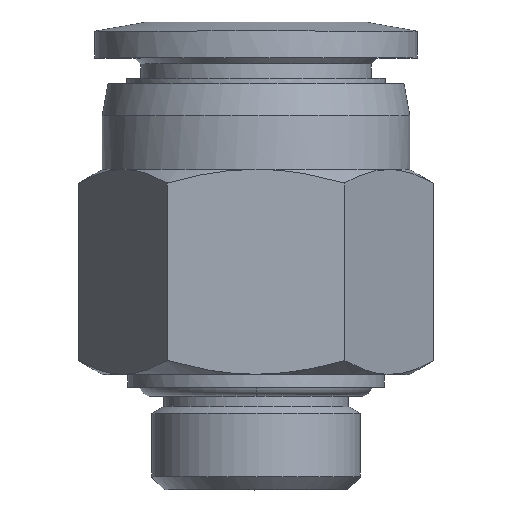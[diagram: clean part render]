
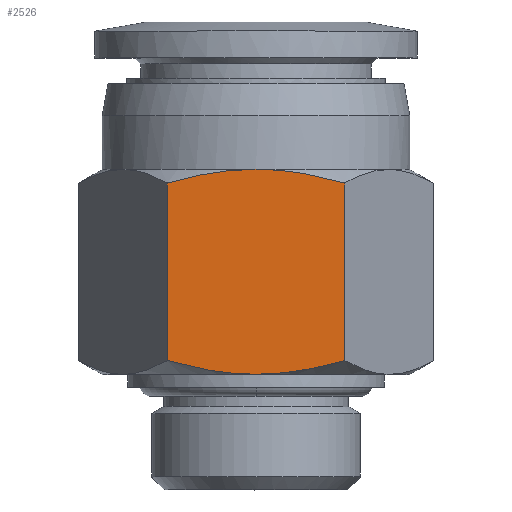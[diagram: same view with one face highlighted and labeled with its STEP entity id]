
A CAD part, top view. The second image highlights one B-rep face of the part: STEP entity #2526.
In plain terms, the highlighted planar face has unit normal (0, 0, 1).
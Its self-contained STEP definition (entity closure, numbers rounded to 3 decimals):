
#15 = B_SPLINE_CURVE_WITH_KNOTS ( 'NONE', 3,
 ( #325, #1585, #2099, #1600 ),
 .UNSPECIFIED., .F., .F.,
 ( 4, 4 ),
 ( 0., 1. ),
 .UNSPECIFIED. ) ;
#18 = CARTESIAN_POINT ( 'NONE',  ( -4.47, 9.438, 12. ) ) ;
#29 = CARTESIAN_POINT ( 'NONE',  ( -6.928, 10.072, 12. ) ) ;
#37 = DIRECTION ( 'NONE',  ( 1., 0., 0. ) ) ;
#129 = EDGE_CURVE ( 'NONE', #287, #3015, #15, .T. ) ;
#130 = CARTESIAN_POINT ( 'NONE',  ( 0., 25., 12. ) ) ;
#133 = CARTESIAN_POINT ( 'NONE',  ( 6.928, 10.072, 12. ) ) ;
#201 = CARTESIAN_POINT ( 'NONE',  ( 6.928, 10.072, 12. ) ) ;
#211 = B_SPLINE_CURVE_WITH_KNOTS ( 'NONE', 3,
 ( #1268, #1047, #2496, #511, #2245, #3280 ),
 .UNSPECIFIED., .F., .F.,
 ( 4, 2, 4 ),
 ( 0., 0.5, 1. ),
 .UNSPECIFIED. ) ;
#225 = VERTEX_POINT ( 'NONE', #2302 ) ;
#227 = EDGE_CURVE ( 'NONE', #1193, #287, #211, .T. ) ;
#287 = VERTEX_POINT ( 'NONE', #1586 ) ;
#325 = CARTESIAN_POINT ( 'NONE',  ( -6.928, 23.928, 12. ) ) ;
#409 = CARTESIAN_POINT ( 'NONE',  ( 6.928, 19.309, 12. ) ) ;
#413 = CARTESIAN_POINT ( 'NONE',  ( 5.667, 9.708, 12. ) ) ;
#483 = B_SPLINE_CURVE_WITH_KNOTS ( 'NONE', 3,
 ( #2345, #3122, #18, #1038, #1563, #2058 ),
 .UNSPECIFIED., .F., .F.,
 ( 4, 2, 4 ),
 ( 0., 0.5, 1. ),
 .UNSPECIFIED. ) ;
#511 = CARTESIAN_POINT ( 'NONE',  ( -4.47, 24.562, 12. ) ) ;
#613 = AXIS2_PLACEMENT_3D ( 'NONE', #1316, #2333, #37 ) ;
#628 = CARTESIAN_POINT ( 'NONE',  ( 1.092, 25., 12. ) ) ;
#765 = B_SPLINE_CURVE_WITH_KNOTS ( 'NONE', 3,
 ( #910, #2899, #1917, #2376, #628, #130 ),
 .UNSPECIFIED., .F., .F.,
 ( 4, 2, 4 ),
 ( 0., 0.5, 1. ),
 .UNSPECIFIED. ) ;
#910 = CARTESIAN_POINT ( 'NONE',  ( 6.928, 23.928, 12. ) ) ;
#997 = EDGE_CURVE ( 'NONE', #3015, #1146, #483, .T. ) ;
#1038 = CARTESIAN_POINT ( 'NONE',  ( -2.204, 9.088, 12. ) ) ;
#1047 = CARTESIAN_POINT ( 'NONE',  ( -1.092, 25., 12. ) ) ;
#1072 = ORIENTED_EDGE ( 'NONE', *, *, #227, .T. ) ;
#1093 = EDGE_CURVE ( 'NONE', #2280, #1193, #765, .T. ) ;
#1113 = CARTESIAN_POINT ( 'NONE',  ( 6.928, 23.928, 12. ) ) ;
#1146 = VERTEX_POINT ( 'NONE', #1948 ) ;
#1193 = VERTEX_POINT ( 'NONE', #1220 ) ;
#1220 = CARTESIAN_POINT ( 'NONE',  ( 0., 25., 12. ) ) ;
#1252 = ORIENTED_EDGE ( 'NONE', *, *, #1759, .T. ) ;
#1268 = CARTESIAN_POINT ( 'NONE',  ( 0., 25., 12. ) ) ;
#1316 = CARTESIAN_POINT ( 'NONE',  ( 0., 25., 12. ) ) ;
#1435 = CARTESIAN_POINT ( 'NONE',  ( 6.928, 23.928, 12. ) ) ;
#1496 = CARTESIAN_POINT ( 'NONE',  ( 1.092, 9., 12. ) ) ;
#1563 = CARTESIAN_POINT ( 'NONE',  ( -1.092, 9., 12. ) ) ;
#1585 = CARTESIAN_POINT ( 'NONE',  ( -6.928, 19.309, 12. ) ) ;
#1586 = CARTESIAN_POINT ( 'NONE',  ( -6.928, 23.928, 12. ) ) ;
#1590 = EDGE_CURVE ( 'NONE', #1146, #225, #2653, .T. ) ;
#1600 = CARTESIAN_POINT ( 'NONE',  ( -6.928, 10.072, 12. ) ) ;
#1658 = ORIENTED_EDGE ( 'NONE', *, *, #997, .T. ) ;
#1748 = B_SPLINE_CURVE_WITH_KNOTS ( 'NONE', 3,
 ( #133, #2707, #409, #1435 ),
 .UNSPECIFIED., .F., .F.,
 ( 4, 4 ),
 ( 0., 1. ),
 .UNSPECIFIED. ) ;
#1759 = EDGE_CURVE ( 'NONE', #225, #2280, #1748, .T. ) ;
#1827 = PLANE ( 'NONE',  #613 ) ;
#1917 = CARTESIAN_POINT ( 'NONE',  ( 4.47, 24.562, 12. ) ) ;
#1948 = CARTESIAN_POINT ( 'NONE',  ( 0., 9., 12. ) ) ;
#2058 = CARTESIAN_POINT ( 'NONE',  ( 0., 9., 12. ) ) ;
#2079 = ORIENTED_EDGE ( 'NONE', *, *, #129, .T. ) ;
#2099 = CARTESIAN_POINT ( 'NONE',  ( -6.928, 14.691, 12. ) ) ;
#2245 = CARTESIAN_POINT ( 'NONE',  ( -5.667, 24.292, 12. ) ) ;
#2263 = CARTESIAN_POINT ( 'NONE',  ( 2.204, 9.088, 12. ) ) ;
#2280 = VERTEX_POINT ( 'NONE', #1113 ) ;
#2302 = CARTESIAN_POINT ( 'NONE',  ( 6.928, 10.072, 12. ) ) ;
#2333 = DIRECTION ( 'NONE',  ( 0., 0., 1. ) ) ;
#2345 = CARTESIAN_POINT ( 'NONE',  ( -6.928, 10.072, 12. ) ) ;
#2376 = CARTESIAN_POINT ( 'NONE',  ( 2.204, 24.912, 12. ) ) ;
#2496 = CARTESIAN_POINT ( 'NONE',  ( -2.204, 24.912, 12. ) ) ;
#2518 = EDGE_LOOP ( 'NONE', ( #3244, #1252, #3309, #1072, #2079, #1658 ) ) ;
#2526 = ADVANCED_FACE ( 'NONE', ( #3094 ), #1827, .T. ) ;
#2653 = B_SPLINE_CURVE_WITH_KNOTS ( 'NONE', 3,
 ( #2988, #1496, #2263, #3009, #413, #201 ),
 .UNSPECIFIED., .F., .F.,
 ( 4, 2, 4 ),
 ( 0., 0.5, 1. ),
 .UNSPECIFIED. ) ;
#2707 = CARTESIAN_POINT ( 'NONE',  ( 6.928, 14.691, 12. ) ) ;
#2899 = CARTESIAN_POINT ( 'NONE',  ( 5.668, 24.292, 12. ) ) ;
#2988 = CARTESIAN_POINT ( 'NONE',  ( 0., 9., 12. ) ) ;
#3009 = CARTESIAN_POINT ( 'NONE',  ( 4.47, 9.438, 12. ) ) ;
#3015 = VERTEX_POINT ( 'NONE', #29 ) ;
#3094 = FACE_OUTER_BOUND ( 'NONE', #2518, .T. ) ;
#3122 = CARTESIAN_POINT ( 'NONE',  ( -5.668, 9.708, 12. ) ) ;
#3244 = ORIENTED_EDGE ( 'NONE', *, *, #1590, .T. ) ;
#3280 = CARTESIAN_POINT ( 'NONE',  ( -6.928, 23.928, 12. ) ) ;
#3309 = ORIENTED_EDGE ( 'NONE', *, *, #1093, .T. ) ;
